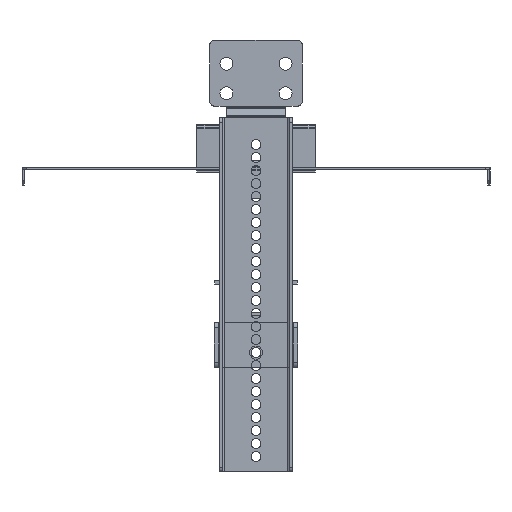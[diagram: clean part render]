
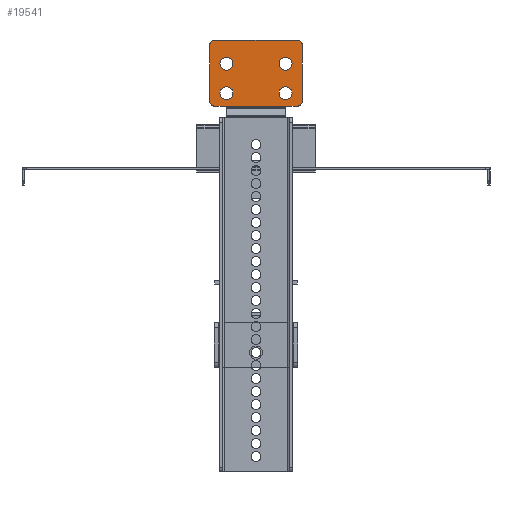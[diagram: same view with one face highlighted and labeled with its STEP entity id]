
A CAD part, left-side view. The second image highlights one B-rep face of the part: STEP entity #19541.
In plain terms, the highlighted planar face has unit normal (-1, 0, 0) as drawn and (0, -1, 0) by its records, which use the part's own axes.
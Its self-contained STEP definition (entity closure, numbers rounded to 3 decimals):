
#15966=CARTESIAN_POINT(' ',(-154.746,-0.003,12.5));
#15967=VERTEX_POINT(' ',#15966);
#15981=CARTESIAN_POINT(' ',(-154.746,-0.003,12.5));
#15986=DIRECTION(' ',(1.,0.,0.));
#15991=VECTOR(' ',#15986,1.);
#15996=LINE('',#15981,#15991);
#16001=CARTESIAN_POINT(' ',(-154.588,-0.003,12.5));
#16002=VERTEX_POINT(' ',#16001);
#16006=EDGE_CURVE(' ',#15967,#16002,#15996,.T.);
#16276=CARTESIAN_POINT(' ',(-154.588,-0.003,-12.5));
#16277=VERTEX_POINT(' ',#16276);
#16291=CARTESIAN_POINT(' ',(-154.588,-0.003,-12.5));
#16296=DIRECTION(' ',(-1.,0.,0.));
#16301=VECTOR(' ',#16296,1.);
#16306=LINE('',#16291,#16301);
#16311=CARTESIAN_POINT(' ',(-154.746,-0.003,-12.5));
#16312=VERTEX_POINT(' ',#16311);
#16316=EDGE_CURVE(' ',#16277,#16312,#16306,.T.);
#18741=CARTESIAN_POINT(' ',(-154.746,-0.003,17.5));
#18742=VERTEX_POINT(' ',#18741);
#18756=CARTESIAN_POINT(' ',(-154.746,-0.003,17.5));
#18761=DIRECTION(' ',(0.,0.,-1.));
#18766=VECTOR(' ',#18761,1.);
#18771=LINE('',#18756,#18766);
#18776=EDGE_CURVE(' ',#18742,#15967,#18771,.T.);
#18806=DIRECTION(' ',(0.,-1.,0.));
#18811=CARTESIAN_POINT(' ',(-182.746,-0.003,19.5));
#18816=DIRECTION(' ',(0.,0.,-1.));
#18821=AXIS2_PLACEMENT_3D(' ',#18811,#18806,#18816);
#18826=PLANE('NONE',#18821);
#18831=CARTESIAN_POINT(' ',(-180.746,-0.003,19.5));
#18836=DIRECTION(' ',(1.,0.,0.));
#18841=VECTOR(' ',#18836,1.);
#18846=LINE('',#18831,#18841);
#18851=CARTESIAN_POINT(' ',(-180.746,-0.003,19.5));
#18852=VERTEX_POINT(' ',#18851);
#18856=CARTESIAN_POINT(' ',(-156.746,-0.003,19.5));
#18857=VERTEX_POINT(' ',#18856);
#18861=EDGE_CURVE(' ',#18852,#18857,#18846,.T.);
#18866=ORIENTED_EDGE(' ',*,*,#18861,.F.);
#18871=CARTESIAN_POINT(' ',(-180.746,-0.003,17.5));
#18876=DIRECTION(' ',(0.,-1.,0.));
#18881=DIRECTION(' ',(0.,0.,1.));
#18886=AXIS2_PLACEMENT_3D(' ',#18871,#18876,#18881);
#18891=CIRCLE('',#18886,2.);
#18896=CARTESIAN_POINT(' ',(-182.746,-0.003,17.5));
#18897=VERTEX_POINT(' ',#18896);
#18901=EDGE_CURVE(' ',#18852,#18897,#18891,.T.);
#18906=ORIENTED_EDGE(' ',*,*,#18901,.T.);
#18911=CARTESIAN_POINT(' ',(-182.746,-0.003,-17.5));
#18916=DIRECTION(' ',(0.,0.,1.));
#18921=VECTOR(' ',#18916,1.);
#18926=LINE('',#18911,#18921);
#18931=CARTESIAN_POINT(' ',(-182.746,-0.003,-17.5));
#18932=VERTEX_POINT(' ',#18931);
#18936=EDGE_CURVE(' ',#18932,#18897,#18926,.T.);
#18941=ORIENTED_EDGE(' ',*,*,#18936,.F.);
#18946=CARTESIAN_POINT(' ',(-180.746,-0.003,-17.5));
#18951=DIRECTION(' ',(0.,-1.,0.));
#18956=DIRECTION(' ',(-1.,0.,0.));
#18961=AXIS2_PLACEMENT_3D(' ',#18946,#18951,#18956);
#18966=CIRCLE('',#18961,2.);
#18971=CARTESIAN_POINT(' ',(-180.746,-0.003,-19.5));
#18972=VERTEX_POINT(' ',#18971);
#18976=EDGE_CURVE(' ',#18932,#18972,#18966,.T.);
#18981=ORIENTED_EDGE(' ',*,*,#18976,.T.);
#18986=CARTESIAN_POINT(' ',(-156.746,-0.003,-19.5));
#18991=DIRECTION(' ',(-1.,0.,0.));
#18996=VECTOR(' ',#18991,1.);
#19001=LINE('',#18986,#18996);
#19006=CARTESIAN_POINT(' ',(-156.746,-0.003,-19.5));
#19007=VERTEX_POINT(' ',#19006);
#19011=EDGE_CURVE(' ',#19007,#18972,#19001,.T.);
#19016=ORIENTED_EDGE(' ',*,*,#19011,.F.);
#19021=CARTESIAN_POINT(' ',(-156.746,-0.003,-17.5));
#19026=DIRECTION(' ',(0.,-1.,0.));
#19031=DIRECTION(' ',(0.,0.,-1.));
#19036=AXIS2_PLACEMENT_3D(' ',#19021,#19026,#19031);
#19041=CIRCLE('',#19036,2.);
#19046=CARTESIAN_POINT(' ',(-154.746,-0.003,-17.5));
#19047=VERTEX_POINT(' ',#19046);
#19051=EDGE_CURVE(' ',#19007,#19047,#19041,.T.);
#19056=ORIENTED_EDGE(' ',*,*,#19051,.T.);
#19061=CARTESIAN_POINT(' ',(-154.746,-0.003,-12.5));
#19066=DIRECTION(' ',(0.,0.,-1.));
#19071=VECTOR(' ',#19066,1.);
#19076=LINE('',#19061,#19071);
#19081=EDGE_CURVE(' ',#16312,#19047,#19076,.T.);
#19086=ORIENTED_EDGE(' ',*,*,#19081,.F.);
#19091=ORIENTED_EDGE(' ',*,*,#16316,.F.);
#19096=CARTESIAN_POINT(' ',(-154.588,-0.003,-12.5));
#19101=DIRECTION(' ',(0.,0.,1.));
#19106=VECTOR(' ',#19101,1.);
#19111=LINE('',#19096,#19106);
#19116=EDGE_CURVE(' ',#16277,#16002,#19111,.T.);
#19121=ORIENTED_EDGE(' ',*,*,#19116,.T.);
#19126=ORIENTED_EDGE(' ',*,*,#16006,.F.);
#19131=ORIENTED_EDGE(' ',*,*,#18776,.F.);
#19136=CARTESIAN_POINT(' ',(-156.746,-0.003,17.5));
#19141=DIRECTION(' ',(0.,-1.,0.));
#19146=DIRECTION(' ',(1.,0.,0.));
#19151=AXIS2_PLACEMENT_3D(' ',#19136,#19141,#19146);
#19156=CIRCLE('',#19151,2.);
#19161=EDGE_CURVE(' ',#18742,#18857,#19156,.T.);
#19166=ORIENTED_EDGE(' ',*,*,#19161,.T.);
#19171=EDGE_LOOP(' ',(#18866,#18906,#18941,#18981,#19016,#19056,#19086,#19091,#19121,#19126,#19131,#19166));
#19176=FACE_OUTER_BOUND(' ',#19171,.T.);
#19181=CARTESIAN_POINT(' ',(-160.246,-0.003,12.5));
#19186=DIRECTION(' ',(0.,-1.,0.));
#19191=DIRECTION(' ',(-1.,0.,0.));
#19196=AXIS2_PLACEMENT_3D(' ',#19181,#19186,#19191);
#19201=CIRCLE('',#19196,2.75);
#19206=CARTESIAN_POINT(' ',(-162.996,-0.003,12.5));
#19207=VERTEX_POINT(' ',#19206);
#19211=CARTESIAN_POINT(' ',(-157.496,-0.003,12.5));
#19212=VERTEX_POINT(' ',#19211);
#19216=EDGE_CURVE(' ',#19207,#19212,#19201,.T.);
#19221=ORIENTED_EDGE(' ',*,*,#19216,.F.);
#19226=CARTESIAN_POINT(' ',(-160.246,-0.003,12.5));
#19231=DIRECTION(' ',(0.,-1.,-0.));
#19236=DIRECTION(' ',(1.,0.,0.));
#19241=AXIS2_PLACEMENT_3D(' ',#19226,#19231,#19236);
#19246=CIRCLE('',#19241,2.75);
#19251=EDGE_CURVE(' ',#19212,#19207,#19246,.T.);
#19256=ORIENTED_EDGE(' ',*,*,#19251,.F.);
#19261=EDGE_LOOP(' ',(#19221,#19256));
#19266=FACE_BOUND(' ',#19261,.T.);
#19271=CARTESIAN_POINT(' ',(-172.746,-0.003,12.5));
#19276=DIRECTION(' ',(0.,-1.,0.));
#19281=DIRECTION(' ',(-1.,0.,0.));
#19286=AXIS2_PLACEMENT_3D(' ',#19271,#19276,#19281);
#19291=CIRCLE('',#19286,2.75);
#19296=CARTESIAN_POINT(' ',(-175.496,-0.003,12.5));
#19297=VERTEX_POINT(' ',#19296);
#19301=CARTESIAN_POINT(' ',(-169.996,-0.003,12.5));
#19302=VERTEX_POINT(' ',#19301);
#19306=EDGE_CURVE(' ',#19297,#19302,#19291,.T.);
#19311=ORIENTED_EDGE(' ',*,*,#19306,.F.);
#19316=CARTESIAN_POINT(' ',(-172.746,-0.003,12.5));
#19321=DIRECTION(' ',(0.,-1.,-0.));
#19326=DIRECTION(' ',(1.,0.,0.));
#19331=AXIS2_PLACEMENT_3D(' ',#19316,#19321,#19326);
#19336=CIRCLE('',#19331,2.75);
#19341=EDGE_CURVE(' ',#19302,#19297,#19336,.T.);
#19346=ORIENTED_EDGE(' ',*,*,#19341,.F.);
#19351=EDGE_LOOP(' ',(#19311,#19346));
#19356=FACE_BOUND(' ',#19351,.T.);
#19361=CARTESIAN_POINT(' ',(-172.746,-0.003,-12.5));
#19366=DIRECTION(' ',(0.,-1.,0.));
#19371=DIRECTION(' ',(-1.,0.,0.));
#19376=AXIS2_PLACEMENT_3D(' ',#19361,#19366,#19371);
#19381=CIRCLE('',#19376,2.75);
#19386=CARTESIAN_POINT(' ',(-175.496,-0.003,-12.5));
#19387=VERTEX_POINT(' ',#19386);
#19391=CARTESIAN_POINT(' ',(-169.996,-0.003,-12.5));
#19392=VERTEX_POINT(' ',#19391);
#19396=EDGE_CURVE(' ',#19387,#19392,#19381,.T.);
#19401=ORIENTED_EDGE(' ',*,*,#19396,.F.);
#19406=CARTESIAN_POINT(' ',(-172.746,-0.003,-12.5));
#19411=DIRECTION(' ',(0.,-1.,-0.));
#19416=DIRECTION(' ',(1.,0.,0.));
#19421=AXIS2_PLACEMENT_3D(' ',#19406,#19411,#19416);
#19426=CIRCLE('',#19421,2.75);
#19431=EDGE_CURVE(' ',#19392,#19387,#19426,.T.);
#19436=ORIENTED_EDGE(' ',*,*,#19431,.F.);
#19441=EDGE_LOOP(' ',(#19401,#19436));
#19446=FACE_BOUND(' ',#19441,.T.);
#19451=CARTESIAN_POINT(' ',(-160.246,-0.003,-12.5));
#19456=DIRECTION(' ',(0.,-1.,0.));
#19461=DIRECTION(' ',(-1.,0.,0.));
#19466=AXIS2_PLACEMENT_3D(' ',#19451,#19456,#19461);
#19471=CIRCLE('',#19466,2.75);
#19476=CARTESIAN_POINT(' ',(-162.996,-0.003,-12.5));
#19477=VERTEX_POINT(' ',#19476);
#19481=CARTESIAN_POINT(' ',(-157.496,-0.003,-12.5));
#19482=VERTEX_POINT(' ',#19481);
#19486=EDGE_CURVE(' ',#19477,#19482,#19471,.T.);
#19491=ORIENTED_EDGE(' ',*,*,#19486,.F.);
#19496=CARTESIAN_POINT(' ',(-160.246,-0.003,-12.5));
#19501=DIRECTION(' ',(0.,-1.,-0.));
#19506=DIRECTION(' ',(1.,0.,0.));
#19511=AXIS2_PLACEMENT_3D(' ',#19496,#19501,#19506);
#19516=CIRCLE('',#19511,2.75);
#19521=EDGE_CURVE(' ',#19482,#19477,#19516,.T.);
#19526=ORIENTED_EDGE(' ',*,*,#19521,.F.);
#19531=EDGE_LOOP(' ',(#19491,#19526));
#19536=FACE_BOUND(' ',#19531,.T.);
#19541=ADVANCED_FACE('NONE',(#19176,#19266,#19356,#19446,#19536),#18826,.T.);
